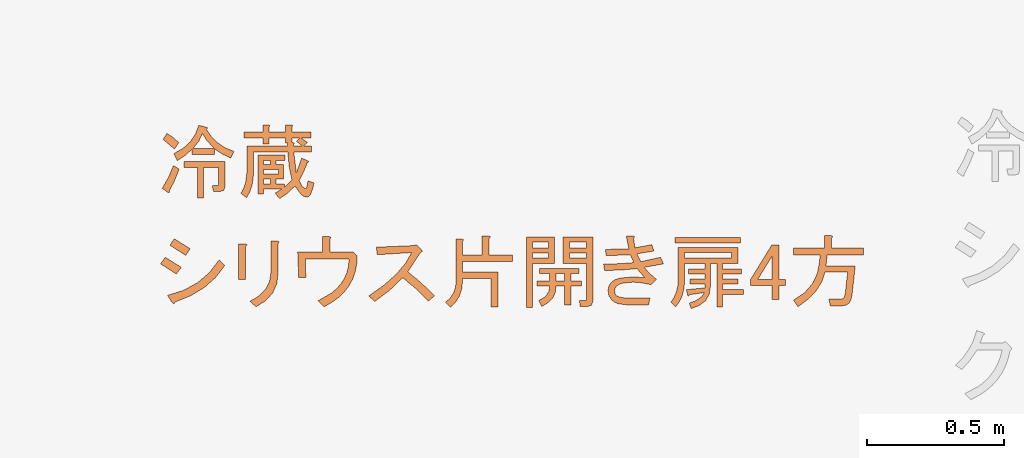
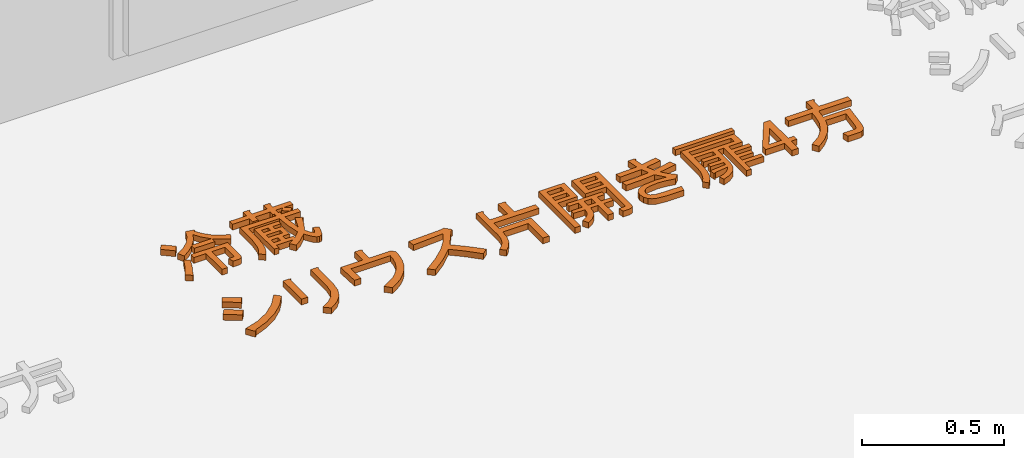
# One storey, part 11 of 16: 1 proxy.
"""IFC2X3 building model written with IfcOpenShell, lengths in millimetres."""

from ifc_helpers import new_model, entity, si_unit, converted_unit, derived_unit, direction, frame, frame_2d, origin, place, context, subcontext, project, spatial, polyline, rectangle, outline, extrude, type_object, element, save


model = new_model("IFC2X3")

# Units and contexts
model_context = context("Model", 3, precision=0.01, world=origin(), true_north=direction((6.123031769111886e-17, 1.0)))
body_context = subcontext(model_context, "Body", "Model", "MODEL_VIEW")
ifc_project = project(units=[si_unit("LENGTHUNIT", "METRE", prefix="MILLI"), si_unit("AREAUNIT", "SQUARE_METRE"), si_unit("VOLUMEUNIT", "CUBIC_METRE"), converted_unit("PLANEANGLEUNIT", "DEGREE", entity("IfcRatioMeasure", 0.017453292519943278), si_unit("PLANEANGLEUNIT", "RADIAN"), dimensions=[0, 0, 0, 0, 0, 0, 0]), si_unit("MASSUNIT", "GRAM", prefix="KILO"), derived_unit("MASSDENSITYUNIT", [(si_unit("MASSUNIT", "GRAM", prefix="KILO"), 1), (si_unit("LENGTHUNIT", "METRE"), -3)]), derived_unit("IONCONCENTRATIONUNIT", [(si_unit("MASSUNIT", "GRAM", prefix="KILO"), 1), (si_unit("LENGTHUNIT", "METRE"), -3)]), derived_unit("MOMENTOFINERTIAUNIT", [(si_unit("LENGTHUNIT", "METRE"), 4)]), si_unit("TIMEUNIT", "SECOND"), si_unit("FREQUENCYUNIT", "HERTZ"), si_unit("THERMODYNAMICTEMPERATUREUNIT", "DEGREE_CELSIUS"), derived_unit("THERMALTRANSMITTANCEUNIT", [(si_unit("MASSUNIT", "GRAM", prefix="KILO"), 1), (si_unit("THERMODYNAMICTEMPERATUREUNIT", "KELVIN"), -1), (si_unit("TIMEUNIT", "SECOND"), -3)]), derived_unit("THERMALCONDUCTANCEUNIT", [(si_unit("MASSUNIT", "GRAM", prefix="KILO"), 1), (si_unit("THERMODYNAMICTEMPERATUREUNIT", "KELVIN"), -1), (si_unit("TIMEUNIT", "SECOND"), -3), (si_unit("LENGTHUNIT", "METRE"), 1)]), derived_unit("VOLUMETRICFLOWRATEUNIT", [(si_unit("LENGTHUNIT", "METRE"), 3), (si_unit("TIMEUNIT", "SECOND"), -1)]), derived_unit("MASSFLOWRATEUNIT", [(si_unit("MASSUNIT", "GRAM", prefix="KILO"), 1), (si_unit("TIMEUNIT", "SECOND"), -1)]), derived_unit("ROTATIONALFREQUENCYUNIT", [(si_unit("TIMEUNIT", "SECOND"), -1)]), si_unit("ELECTRICCURRENTUNIT", "AMPERE"), si_unit("ELECTRICVOLTAGEUNIT", "VOLT"), si_unit("POWERUNIT", "WATT"), si_unit("FORCEUNIT", "NEWTON", prefix="KILO"), si_unit("ILLUMINANCEUNIT", "LUX"), si_unit("LUMINOUSFLUXUNIT", "LUMEN"), si_unit("LUMINOUSINTENSITYUNIT", "CANDELA"), derived_unit("USERDEFINED", [(si_unit("MASSUNIT", "GRAM", prefix="KILO"), -1), (si_unit("LENGTHUNIT", "METRE"), -2), (si_unit("TIMEUNIT", "SECOND"), 3), (si_unit("LUMINOUSFLUXUNIT", "LUMEN"), 1)]), derived_unit("USERDEFINED", [(si_unit("MASSUNIT", "GRAM", prefix="KILO"), 1), (si_unit("TIMEUNIT", "SECOND"), -3), (si_unit("LENGTHUNIT", "METRE"), 3), (si_unit("ELECTRICCURRENTUNIT", "AMPERE"), -2)]), derived_unit("SOUNDPOWERUNIT", [(si_unit("MASSUNIT", "GRAM", prefix="KILO"), 1), (si_unit("TIMEUNIT", "SECOND"), -3), (si_unit("LENGTHUNIT", "METRE"), 2)]), derived_unit("SOUNDPRESSUREUNIT", [(si_unit("MASSUNIT", "GRAM", prefix="KILO"), 1), (si_unit("LENGTHUNIT", "METRE"), -1), (si_unit("TIMEUNIT", "SECOND"), -2)]), derived_unit("LINEARVELOCITYUNIT", [(si_unit("LENGTHUNIT", "METRE"), 1), (si_unit("TIMEUNIT", "SECOND"), -1)]), si_unit("PRESSUREUNIT", "PASCAL"), derived_unit("USERDEFINED", [(si_unit("MASSUNIT", "GRAM", prefix="KILO"), 1), (si_unit("LENGTHUNIT", "METRE"), -2), (si_unit("TIMEUNIT", "SECOND"), -2)]), derived_unit("LINEARFORCEUNIT", [(si_unit("MASSUNIT", "GRAM", prefix="KILO"), 1), (si_unit("TIMEUNIT", "SECOND"), -2)]), derived_unit("PLANARFORCEUNIT", [(si_unit("MASSUNIT", "GRAM", prefix="KILO"), 1), (si_unit("LENGTHUNIT", "METRE"), -1), (si_unit("TIMEUNIT", "SECOND"), -2)]), derived_unit("SPECIFICHEATCAPACITYUNIT", [(si_unit("THERMODYNAMICTEMPERATUREUNIT", "KELVIN"), -1), (si_unit("LENGTHUNIT", "METRE"), 2), (si_unit("TIMEUNIT", "SECOND"), -2)]), derived_unit("HEATINGVALUEUNIT", [(si_unit("LENGTHUNIT", "METRE"), 2), (si_unit("TIMEUNIT", "SECOND"), -2)]), derived_unit("VAPORPERMEABILITYUNIT", [(si_unit("LENGTHUNIT", "METRE"), -1), (si_unit("TIMEUNIT", "SECOND"), 1)]), derived_unit("DYNAMICVISCOSITYUNIT", [(si_unit("MASSUNIT", "GRAM", prefix="KILO"), 1), (si_unit("TIMEUNIT", "SECOND"), -1), (si_unit("LENGTHUNIT", "METRE"), -1)]), derived_unit("THERMALEXPANSIONCOEFFICIENTUNIT", [(si_unit("THERMODYNAMICTEMPERATUREUNIT", "KELVIN"), -1)]), derived_unit("MODULUSOFELASTICITYUNIT", [(si_unit("MASSUNIT", "GRAM", prefix="KILO"), 1), (si_unit("LENGTHUNIT", "METRE"), -1), (si_unit("TIMEUNIT", "SECOND"), -2)]), derived_unit("ISOTHERMALMOISTURECAPACITYUNIT", [(si_unit("LENGTHUNIT", "METRE"), 3), (si_unit("MASSUNIT", "GRAM", prefix="KILO"), -1)]), derived_unit("MOISTUREDIFFUSIVITYUNIT", [(si_unit("TIMEUNIT", "SECOND"), -1), (si_unit("LENGTHUNIT", "METRE"), 2)])], contexts=[model_context])

# Site, building, storey
site_placement = place(None, origin())
site = spatial("IfcSite", under=ifc_project, at=site_placement, Name="Default", CompositionType="ELEMENT")
building_placement = place(site_placement, origin())
building = spatial("IfcBuilding", under=site, at=building_placement, CompositionType="ELEMENT")
storey_placement = place(building_placement, frame((0.0, 0.0, 500.0)))
storey = spatial("IfcBuildingStorey", under=building, at=storey_placement, Name="レベル 1", CompositionType="ELEMENT", Elevation=500.00000000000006)

# Proxy
building_element_proxy_type = type_object("IfcBuildingElementProxyType", Name="立体文字:200㎜\u3000MS Pゴシック", PredefinedType="NOTDEFINED")
proxy_placement = place(storey_placement, origin())
element("IfcBuildingElementProxy", 1, at=proxy_placement, inside=storey, type_object=building_element_proxy_type, Name="立体文字:200㎜\u3000MS Pゴシック", ObjectType="立体文字:200㎜\u3000MS Pゴシック", context=body_context, shape_type="SweptSolid", body=[
    extrude(outline(polyline([(-12.69292841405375, -26.506046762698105), (13.137935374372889, -26.506046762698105), (20.196666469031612, 26.894788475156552), (-7.8336570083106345, 28.224694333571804), (-12.808016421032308, -2.107389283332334), (-12.69292841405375, -26.506046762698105)])), frame((-11926.052503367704, 18997.184638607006, 0.0), z_axis=(0.0, 0.0, 1.0), x_axis=(-0.5339929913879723, -0.8454889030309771, 0.0)), (0.0, 0.0, 1.0), 24.99999999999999),
    extrude(outline(polyline([(-86.15242915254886, -7.39350536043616), (-75.8073039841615, -7.39350536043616), (-75.8073039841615, 24.79132849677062), (-57.41597035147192, 24.79132849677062), (-57.41597035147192, -3.945130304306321), (-4.540886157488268, -3.945130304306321), (-4.540886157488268, 24.79132849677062), (11.551530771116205, 24.79132849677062), (11.551530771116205, -8.542963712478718), (29.942864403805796, -8.542963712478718), (29.942864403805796, 90.3104545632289), (-111.44051289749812, 90.3104545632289), (-111.44051289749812, 70.76966257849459), (-94.1986376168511, 70.76966257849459), (-94.1986376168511, 4.101078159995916), (-107.99213784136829, 27.090245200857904), (-128.682388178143, 10.997828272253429), (-110.2910545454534, -15.727078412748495), (-82.70405409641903, -45.3256309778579), (-112.87733583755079, -66.59061049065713), (-120.42065627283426, -76.79205336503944), (-122.93509641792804, -86.70613165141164), (-120.77986200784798, -94.68049896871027), (-114.31415877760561, -101.36172563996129), (-88.45134585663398, -110.84475704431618), (-71.20947057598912, -114.29313210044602), (-63.163262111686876, -92.45342341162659), (-78.10622068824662, -90.15450670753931), (-88.45134585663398, -87.28086082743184), (-91.89972091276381, -83.2577565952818), (-84.71560621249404, -72.33790225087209), (-63.163262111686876, -60.26858955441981), (-30.403699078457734, -76.93573565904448), (3.505322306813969, -90.15450670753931), (5.5168744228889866, -95.90179846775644), (9.252614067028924, -92.45342341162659), (19.597739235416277, -69.4642563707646), (-35.57626166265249, -49.9234643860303), (41.437447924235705, -40.7277975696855), (41.437447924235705, -105.09746528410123), (63.27715661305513, -105.09746528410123), (63.27715661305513, -76.36100648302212), (77.07065683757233, -90.15450670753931), (93.1630737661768, -67.16533966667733), (93.1630737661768, -103.9480069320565), (115.00278245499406, -103.9480069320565), (115.00278245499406, -33.831047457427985), (133.39411608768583, -33.831047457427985), (137.99194949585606, -37.566787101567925), (140.29086619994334, -32.68158910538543), (140.29086619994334, -10.841880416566), (115.00278245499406, -10.841880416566), (115.00278245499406, 48.92995388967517), (133.39411608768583, 48.92995388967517), (137.99194949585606, 45.19421424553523), (140.29086619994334, 50.079412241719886), (140.29086619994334, 71.91912093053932), (115.00278245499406, 71.91912093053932), (115.00278245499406, 140.88662205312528), (93.1630737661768, 140.88662205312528), (93.1630737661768, 71.91912093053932), (71.32336507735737, 71.91912093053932), (71.32336507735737, 48.92995388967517), (93.1630737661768, 48.92995388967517), (93.1630737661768, -10.841880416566), (74.77174013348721, -10.841880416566), (74.77174013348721, -17.738630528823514), (63.27715661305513, -17.738630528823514), (63.27715661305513, 129.3920385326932), (-24.081678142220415, 129.3920385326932), (-70.63474139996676, 135.13933029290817), (-90.89394485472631, 142.32344499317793), (-109.14159619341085, 152.38120557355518), (-125.23401312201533, 131.6909552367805), (-105.26217425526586, 120.62741859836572), (-83.27878327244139, 112.72489242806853), (-59.28384017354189, 107.98337672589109), (-33.27734495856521, 106.40287149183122), (41.437447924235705, 106.40287149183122), (41.437447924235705, -18.888088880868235), (-12.012365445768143, -23.773286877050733), (-59.714887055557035, -33.831047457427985), (-86.15242915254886, -7.39350536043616)]), holes=[polyline([(75.92119848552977, -38.428880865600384), (75.92119848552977, -33.831047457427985), (93.1630737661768, -33.831047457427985), (93.1630737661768, -62.56750625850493), (80.51903189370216, -49.9234643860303), (63.27715661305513, -72.91263142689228), (63.27715661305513, -39.57833921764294), (70.17390672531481, -39.57833921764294), (73.33491719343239, -43.31407886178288), (75.92119848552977, -38.428880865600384)]), polyline([(-4.540886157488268, 70.76966257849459), (11.551530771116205, 70.76966257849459), (11.551530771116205, 44.33212048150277), (-4.540886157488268, 44.33212048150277), (-4.540886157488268, 70.76966257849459)]), polyline([(-39.02463671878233, 70.76966257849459), (-22.932219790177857, 70.76966257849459), (-22.932219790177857, 15.595661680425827), (-39.02463671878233, 15.595661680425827), (-39.02463671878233, 70.76966257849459)]), polyline([(-75.8073039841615, 70.76966257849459), (-57.41597035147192, 70.76966257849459), (-57.41597035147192, 44.33212048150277), (-75.8073039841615, 44.33212048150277), (-75.8073039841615, 70.76966257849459)])]), frame((-11519.181218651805, 18912.81492123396, 0.0), z_axis=(0.0, 0.0, 1.0), x_axis=(0.0, 1.0, 0.0)), (0.0, 0.0, 1.0), 25.0),
    extrude(outline(polyline([(-14.555450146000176, -34.35830877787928), (13.834076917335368, -34.35830877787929), (14.857961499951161, 33.86963659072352), (-14.136588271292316, 34.846980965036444), (-14.555450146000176, -34.35830877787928)])), frame((-11893.695250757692, 18607.7021825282, 0.0), z_axis=(0.0, 0.0, 1.0), x_axis=(-0.526354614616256, -0.8502651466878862, 0.0)), (0.0, 0.0, 1.0), 24.99999999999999),
    extrude(outline(polyline([(-84.58097707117, 8.18989075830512), (-84.58097707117, -18.247651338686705), (45.307816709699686, -18.247651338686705), (45.307816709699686, 7.040432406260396), (42.43417082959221, 13.075088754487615), (36.112149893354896, 8.18989075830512), (-84.58097707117, 8.18989075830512)])), frame((-11662.0506563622, 18573.31422016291, 0.0), z_axis=(0.0, 0.0, -1.0), x_axis=(0.0, 1.0, 0.0)), (0.0, 0.0, -1.0), 25.0),
    extrude(outline(polyline([(-11.477428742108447, -36.07605005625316), (15.650762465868, -36.07605005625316), (18.548657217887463, -33.22685941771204), (15.261129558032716, -27.796350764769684), (8.868714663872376, 11.398284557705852), (-3.1003212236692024, 57.19232725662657), (-27.25756150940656, 55.09805037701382), (-16.493952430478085, 9.486648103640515), (-11.477428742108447, -36.07605005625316)])), frame((-11928.286763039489, 18844.29949367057, 0.0), z_axis=(0.0, 0.0, 1.0), x_axis=(0.805055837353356, -0.5931990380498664, 0.0)), (0.0, 0.0, 1.0), 24.999999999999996),
    extrude(outline(polyline([(-21.43923971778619, -112.61303631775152), (6.833697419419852, -112.61303631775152), (2.592756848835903, -77.40037824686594), (-6.017637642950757, -45.78609399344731), (10.432071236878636, -54.010948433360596), (47.4439162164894, 20.012741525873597), (29.966100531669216, 28.75164936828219), (60.937818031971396, 46.35797840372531), (85.99792140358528, 66.2775477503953), (69.54821252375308, 87.35373725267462), (43.46000234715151, 64.89602923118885), (15.058551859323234, 48.414192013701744), (-15.656138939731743, 37.90822560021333), (-48.68407005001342, 33.37812999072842), (-48.29852999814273, 38.64717736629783), (-52.282443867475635, 39.032717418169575), (-73.3586333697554, 14.872207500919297), (-49.68004851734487, -10.05938252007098), (-33.13395462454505, -39.61745316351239), (-23.72035169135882, -73.80200442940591), (-21.43923971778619, -112.61303631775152)]), holes=[polyline([(26.881780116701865, 27.723542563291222), (-7.559797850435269, -41.15961337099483), (-20.66815961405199, -11.47302937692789), (-40.4592156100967, 13.844100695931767), (-9.230471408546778, 16.542881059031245), (26.881780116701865, 27.723542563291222)])]), frame((-11806.084971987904, 18979.691319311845, 0.0), z_axis=(0.0, 0.0, 1.0), x_axis=(0.4472135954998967, -0.8944271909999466, 0.0)), (0.0, 0.0, 1.0), 24.99999999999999),
    extrude(outline(polyline([(-95.80016952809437, -47.90008476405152), (-95.80016952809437, -69.73979345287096), (53.629416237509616, -69.73979345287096), (53.629416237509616, 24.515791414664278), (49.60631200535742, 35.72301034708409), (37.536999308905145, 39.45874999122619), (12.248915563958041, 39.45874999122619), (7.6510821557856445, 17.619041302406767), (26.042415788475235, 17.619041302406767), (29.49079084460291, 16.469582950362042), (30.64024919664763, 13.021207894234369), (30.64024919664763, -47.90008476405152), (-23.384293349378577, -47.90008476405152), (-23.384293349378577, 63.59737538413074), (-46.37346039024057, 63.59737538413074), (-46.37346039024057, -47.90008476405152), (-95.80016952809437, -47.90008476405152)])), frame((-11783.814216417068, 18850.028825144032, 0.0), z_axis=(0.0, 0.0, -1.0), x_axis=(1.0, 0.0, 0.0)), (0.0, 0.0, -1.0), 24.99999999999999),
    extrude(outline(polyline([(-24.760861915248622, -100.93244714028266), (5.213344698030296, -100.93244714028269), (14.007247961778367, -98.35378377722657), (10.414751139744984, -90.61779368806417), (21.87547719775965, -29.787786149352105), (23.197868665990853, 27.95664129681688), (14.381925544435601, 82.61548865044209), (-4.572352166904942, 134.1887559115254), (-33.1360078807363, 127.84127686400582), (-12.97504795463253, 72.94550103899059), (-4.858870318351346, 16.51795509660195), (-8.787474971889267, -41.44136096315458), (-24.760861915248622, -100.93244714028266)])), frame((-11840.939901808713, 18464.55869712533, 0.0), z_axis=(0.0, 0.0, 1.0), x_axis=(0.5368754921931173, -0.8436614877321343, 0.0)), (0.0, 0.0, 1.0), 24.99999999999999),
    extrude(outline(polyline([(12.171942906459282, 32.40035729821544), (-27.91541712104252, 27.371477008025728), (-61.96812080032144, 12.284836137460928), (-89.98616813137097, -12.85956531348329), (-111.96955911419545, -48.0617273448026), (-92.4287671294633, -71.05089438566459), (-72.88797514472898, -37.788443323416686), (-48.74934975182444, -13.865341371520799), (-20.0128909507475, 0.7184114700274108), (13.321401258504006, 5.962815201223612), (128.26723646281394, 5.962815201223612), (128.26723646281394, 30.101440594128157), (124.8188614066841, 36.42346153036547), (119.07156964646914, 32.40035729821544), (12.171942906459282, 32.40035729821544)])), frame((-11567.866912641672, 18501.849383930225, 0.0), z_axis=(0.0, 0.0, -1.0), x_axis=(0.0, 1.0, 0.0)), (0.0, 0.0, -1.0), 25.0),
    extrude(outline(polyline([(-12.927911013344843, -34.30740209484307), (16.736132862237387, -34.30740209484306), (13.261965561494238, 33.839725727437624), (-17.07018741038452, 34.77507846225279), (-12.927911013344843, -34.30740209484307)])), frame((-11927.02954296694, 18539.884139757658, 0.0), z_axis=(0.0, 0.0, 1.0), x_axis=(-0.5812381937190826, -0.8137334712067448, 0.0)), (0.0, 0.0, 1.0), 24.99999999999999),
    extrude(outline(polyline([(-22.97401156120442, -96.89434063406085), (-3.467056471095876, -96.89434063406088), (57.49217818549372, -35.93510597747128), (91.62934959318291, -70.07227738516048), (93.0517317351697, -77.59058299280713), (100.57003734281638, -74.1362263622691), (116.82583325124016, -57.880430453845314), (76.18634348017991, -17.240940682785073), (140.39673731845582, 46.96945315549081), (72.12239450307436, 110.36705719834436), (53.42822920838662, 91.6728919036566), (103.00840672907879, 45.343873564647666), (-9.969374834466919, -67.63390799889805), (-25.86957520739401, -48.88894334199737), (-38.213820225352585, -28.823195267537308), (-47.002109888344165, -7.436663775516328), (-52.23444419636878, 15.270651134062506), (-53.91082314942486, 39.298749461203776), (-52.03124674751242, 64.64763120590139), (-37.6042278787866, 119.30774494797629), (-68.49024010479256, 119.30774494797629), (-77.20233072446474, 88.0153378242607), (-81.79967300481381, 57.94211539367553), (-82.28226694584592, 29.08807765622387), (-78.65011254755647, 1.4532246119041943), (-70.90320980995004, -24.962443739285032), (-59.04155873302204, -50.15892739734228), (-43.06515931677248, -74.13622636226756), (-22.97401156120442, -96.89434063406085)])), frame((-11331.712233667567, 18522.673053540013, 0.0), z_axis=(0.0, 0.0, 1.0), x_axis=(-0.7071067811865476, 0.7071067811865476, 0.0)), (0.0, 0.0, 1.0), 24.999999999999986),
    extrude(outline(polyline([(5.525091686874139, 11.308020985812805), (-1.6526031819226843, 74.77664998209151), (-13.951595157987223, 140.91623239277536), (-42.89874219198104, 132.40700027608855), (-29.969436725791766, 67.22864593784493), (-22.823257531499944, 7.904328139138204), (-87.34766162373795, -7.171982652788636), (-151.01326358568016, -30.3714585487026), (-146.6483426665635, -59.350121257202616), (-83.07334826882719, -34.71668217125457), (-25.48633202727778, -19.214909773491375), (26.112706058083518, -12.84480406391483), (71.72376598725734, -15.606365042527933), (-3.7090009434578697, -115.96803050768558), (17.469532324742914, -133.9792384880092), (95.39203754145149, -25.628349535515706), (105.83948364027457, -15.984553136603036), (100.54485032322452, 9.480111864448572), (96.59357263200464, 15.507484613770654), (89.37254371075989, 11.308020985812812), (5.525091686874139, 11.308020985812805)])), frame((-11074.789510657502, 18519.05020712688, 0.0), z_axis=(0.0, 0.0, -1.0), x_axis=(0.5483569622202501, 0.8362443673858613, 0.0)), (0.0, 0.0, -1.0), 24.999999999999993),
    extrude(outline(polyline([(37.146662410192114, -113.38448760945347), (58.98637109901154, -113.38448760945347), (58.98637109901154, 40.642931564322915), (61.42897009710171, 63.5602574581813), (68.75676709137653, 84.03498435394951), (80.96976208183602, 102.06711225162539), (98.06795506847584, 117.65664115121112), (79.67662143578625, 136.0479747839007), (60.566876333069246, 116.43534165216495), (46.91705840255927, 94.38010952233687), (38.727167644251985, 69.8822783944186), (35.997204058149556, 42.94184826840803), (35.997204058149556, 31.447264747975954), (-67.45404762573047, 31.447264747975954), (-67.45404762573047, 134.89851643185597), (-93.89158972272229, 134.89851643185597), (-93.89158972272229, 6.159181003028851), (35.997204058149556, 6.159181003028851), (35.997204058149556, -30.623486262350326), (-146.76667391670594, -30.623486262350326), (-146.76667391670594, -55.911570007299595), (-61.70675586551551, -55.911570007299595), (-61.70675586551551, -115.68340431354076), (-66.591953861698, -121.43069607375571), (-60.55729751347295, -124.87907112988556), (-35.269213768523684, -124.87907112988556), (-35.269213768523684, -55.911570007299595), (35.997204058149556, -55.911570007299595), (35.997204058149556, -104.18882079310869), (31.112006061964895, -109.9361125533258), (37.146662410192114, -113.38448760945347)])), frame((-10826.990237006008, 18523.628882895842, 0.0), z_axis=(0.0, 0.0, 1.0), x_axis=(-1.0, 0.0, 0.0)), (0.0, 0.0, 1.0), 25.0),
    extrude(outline(polyline([(-168.70511813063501, -69.76327998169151), (-73.30007491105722, -69.76327998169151), (-73.30007491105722, -27.23332095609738), (-73.30007491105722, 15.296638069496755), (57.73817722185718, 15.296638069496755), (61.18655227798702, 14.147179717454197), (62.33601063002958, 10.698804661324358), (62.33601063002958, -11.140904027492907), (84.175719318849, -7.692528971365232), (84.175719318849, 19.894471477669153), (79.57788591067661, 33.687971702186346), (65.78438568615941, 38.285805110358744), (-168.70511813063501, 38.285805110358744), (-168.70511813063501, -69.76327998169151)]), holes=[polyline([(-91.69140854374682, -46.774112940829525), (-111.23220052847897, -46.774112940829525), (-111.23220052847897, 15.296638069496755), (-91.69140854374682, 15.296638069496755), (-91.69140854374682, -46.774112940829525)]), polyline([(-129.62353416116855, 15.296638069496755), (-129.62353416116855, -46.774112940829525), (-150.31378449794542, -46.774112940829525), (-150.31378449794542, 15.296638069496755), (-129.62353416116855, 15.296638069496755)])]), frame((-10425.39748842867, 18475.20500248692, 0.0), z_axis=(0.0, 0.0, 1.0), x_axis=(0.0, -1.0, 0.0)), (0.0, 0.0, 1.0), 25.0),
    extrude(outline(polyline([(-70.5811638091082, -3.907053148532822), (-70.5811638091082, -22.298386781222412), (-24.60282972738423, -22.298386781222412), (-24.60282972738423, -49.885387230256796), (-62.53495534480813, -49.885387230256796), (-62.53495534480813, -68.27672086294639), (82.29679701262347, -68.27672086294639), (82.29679701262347, -49.885387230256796), (52.41087985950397, -49.885387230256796), (52.41087985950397, -22.298386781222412), (91.49246382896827, -22.298386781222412), (91.49246382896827, -3.907053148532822), (52.41087985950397, -3.907053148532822), (52.41087985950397, 65.06044797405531), (29.42171281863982, 65.06044797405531), (29.42171281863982, -3.907053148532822), (-1.6136626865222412, -3.907053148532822), (-3.9844205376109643, 19.728684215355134), (-13.395610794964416, 40.05972881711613), (-29.847233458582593, 57.08608065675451), (-53.339288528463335, 70.80773973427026), (-64.83387204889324, 48.96803104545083), (-47.23279103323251, 40.05972881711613), (-34.66059030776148, 28.27778070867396), (-27.117269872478, 13.622186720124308), (-24.60282972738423, -3.907053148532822), (-70.5811638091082, -3.907053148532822)]), holes=[polyline([(29.42171281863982, -22.298386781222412), (29.42171281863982, -49.885387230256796), (-1.6136626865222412, -49.885387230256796), (-1.6136626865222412, -22.298386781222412), (29.42171281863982, -22.298386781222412)])]), frame((-10519.984647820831, 18461.837022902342, 0.0), z_axis=(0.0, 0.0, -1.0), x_axis=(1.0, 0.0, 0.0)), (0.0, 0.0, -1.0), 25.0),
    extrude(outline(polyline([(21.839708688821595, -61.30444544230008), (117.24475190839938, -61.30444544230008), (117.24475190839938, 42.146806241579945), (-139.08446059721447, 42.146806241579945), (-139.08446059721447, 19.157639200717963), (21.839708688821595, 19.157639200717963), (21.839708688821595, -61.30444544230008)]), holes=[polyline([(98.85341827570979, -38.315278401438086), (78.16316793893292, -38.315278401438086), (78.16316793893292, 19.157639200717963), (98.85341827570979, 19.157639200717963), (98.85341827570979, -38.315278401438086)]), polyline([(40.23104232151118, 19.157639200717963), (59.771834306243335, 19.157639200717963), (59.771834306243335, -38.315278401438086), (40.23104232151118, -38.315278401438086), (40.23104232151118, 19.157639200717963)])]), frame((-10587.500589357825, 18526.665368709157, 0.0), z_axis=(0.0, 0.0, 1.0), x_axis=(0.0, 1.0, 0.0)), (0.0, 0.0, 1.0), 25.0),
    extrude(outline(polyline([(42.1631755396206, 67.93889097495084), (105.09011528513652, 67.93889097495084), (100.93277992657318, 91.93805418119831), (38.95068912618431, 90.6152656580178), (38.95068912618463, 125.57467662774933), (44.71426769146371, 130.44064869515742), (39.328628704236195, 134.83419629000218), (14.384616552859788, 138.99153164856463), (15.707405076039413, 90.9932052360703), (-68.57312082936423, 102.70933215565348), (-70.0848791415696, 79.65501789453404), (17.786072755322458, 68.50580034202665), (25.53383410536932, 38.08166430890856), (-27.850131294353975, 42.90039392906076), (-84.06864352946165, 51.687489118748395), (-84.63555289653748, 27.310386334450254), (-23.409341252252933, 18.853988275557), (33.28159545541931, 14.649410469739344), (56.14693992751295, -22.95557754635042), (15.896374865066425, -12.75120893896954), (-34.794771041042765, -9.255267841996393), (-53.08940874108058, -12.39689058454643), (-66.68342293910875, -18.798242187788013), (-78.30506496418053, -30.84506623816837), (-84.0686435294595, -46.19886159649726), (-83.92691618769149, -66.32414412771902), (-76.32088217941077, -83.61487982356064), (-66.87239272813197, -93.34682395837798), (-53.64450749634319, -101.37803999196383), (-15.850549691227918, -112.33828775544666), (53.31239309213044, -123.86544488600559), (62.00500338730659, -99.6773118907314), (-7.157939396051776, -88.15015476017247), (-40.51110715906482, -80.26066606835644), (-56.668024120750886, -70.57596438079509), (-60.44741990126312, -61.788869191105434), (-60.44741990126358, -51.301045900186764), (-56.99872125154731, -42.84464784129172), (-49.67614192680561, -35.61655341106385), (-39.89695534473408, -31.128520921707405), (-26.43285787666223, -29.002610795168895), (11.550069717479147, -31.837157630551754), (39.234143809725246, -38.78179737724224), (74.66597925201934, -51.67898547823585), (97.15338414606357, -35.61655341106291), (75.98876777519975, -10.53081391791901), (60.115305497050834, 14.838380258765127), (131.35691595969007, 15.783229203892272), (125.12091292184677, 41.29415072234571), (51.044755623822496, 37.32578515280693), (42.1631755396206, 67.93889097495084)])), frame((-10256.607929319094, 18509.042735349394, 0.0), z_axis=(0.0, 0.0, 1.0), x_axis=(0.9863939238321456, 0.16439898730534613, 0.0)), (0.0, 0.0, 1.0), 25.0),
    extrude(rectangle(XDim=239.08733722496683, YDim=18.39133363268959, at=frame_2d((1.0800249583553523e-12, 0.0), x_axis=(1.0, 0.0))), frame((-9967.513406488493, 18632.415537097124, 0.0), z_axis=(0.0, 0.0, 1.0), x_axis=(-1.0, 0.0, 0.0)), (0.0, 0.0, 1.0), 25.0),
    extrude(outline(polyline([(45.65690358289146, -73.01948813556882), (67.46634239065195, -73.01948813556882), (65.92150714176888, -40.169020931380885), (56.56162298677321, -13.952258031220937), (39.38668992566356, 5.63080056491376), (14.396707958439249, 18.58015485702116), (-67.38868757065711, 45.8419533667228), (-59.755383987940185, 68.74186411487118), (91.82021572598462, 18.21666421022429), (97.99955672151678, 36.754687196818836), (54.380679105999, 51.29431306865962), (78.73455244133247, 124.35593307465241), (61.287001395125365, 130.17178342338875), (36.93312805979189, 57.11016341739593), (18.395105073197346, 63.289504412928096), (36.56963741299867, 117.81310143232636), (19.12208636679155, 123.62895178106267), (0.9475540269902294, 69.1053547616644), (-16.49999701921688, 74.92120511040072), (5.67293243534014, 141.4399934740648), (-11.774618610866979, 147.25584382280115), (-33.947548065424, 80.73705545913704), (-53.57604299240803, 87.27988710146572), (-35.76500129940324, 140.7130121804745), (-90.2885983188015, 158.8875445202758), (-158.98833056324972, -47.21165221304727), (-48.85066458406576, -83.92420753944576), (-26.882198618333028, -92.98875554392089), (-7.867094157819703, -104.55230174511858), (8.194648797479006, -118.61484614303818), (21.303030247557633, -135.1763887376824), (43.11246905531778, -124.2716693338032), (29.3679789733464, -104.84763789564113), (11.76140076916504, -88.3769679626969), (-9.707265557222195, -74.85965953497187), (-35.038020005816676, -64.29571261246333), (-97.19492060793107, -43.576745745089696), (-73.56802856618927, 27.30393038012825), (-53.939533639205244, 20.761098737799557), (-73.20453791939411, -37.033914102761), (-55.756986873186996, -42.849764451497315), (-36.49198259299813, 14.945248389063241), (-19.044431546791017, 9.129398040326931), (-36.12849194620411, -42.12278315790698), (-18.68094089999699, -47.93863350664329), (-1.5968805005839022, 3.313547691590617), (11.488782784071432, -1.0483400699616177), (-3.4143337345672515, -67.56712843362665), (18.75859571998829, -70.11156296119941), (21.30303024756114, -67.02189246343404), (17.30463313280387, -63.56873131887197), (27.118880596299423, -8.681643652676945), (36.319737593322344, -19.92713553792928), (42.47636042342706, -34.39860691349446), (45.58874908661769, -52.09605777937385), (45.65690358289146, -73.01948813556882)]), holes=[polyline([(-80.11086020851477, 131.2622553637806), (-60.48236528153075, 124.71942372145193), (-114.64247165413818, -37.76089539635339), (-134.2709665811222, -31.218063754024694), (-80.11086020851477, 131.2622553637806)])]), frame((-9980.497061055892, 18470.078056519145, 0.0), z_axis=(0.0, 0.0, 1.0), x_axis=(0.3162277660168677, -0.9486832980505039, 0.0)), (0.0, 0.0, 1.0), 25.0),
    extrude(outline(polyline([(-103.50936350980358, -69.26732231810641), (43.55843111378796, -69.26732231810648), (63.143513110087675, -57.2287856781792), (22.81441536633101, 8.381239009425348), (65.9015957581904, 34.86601961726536), (52.0572786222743, 57.38886391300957), (8.970098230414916, 30.90408330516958), (-3.6703652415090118, 51.46841940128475), (-22.276193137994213, 40.03180959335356), (-9.635729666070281, 19.467473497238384), (-117.35368064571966, -46.74447802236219), (-103.50936350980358, -69.26732231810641)]), holes=[polyline([(-67.27696181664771, -46.99602953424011), (4.208587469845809, -3.0553707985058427), (31.29529490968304, -47.12180529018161), (-67.27696181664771, -46.99602953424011)])]), frame((-9729.366535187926, 18490.718671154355, 0.0), z_axis=(0.0, 0.0, 1.0), x_axis=(-0.5236612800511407, -0.851926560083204, 0.0)), (0.0, 0.0, 1.0), 24.999999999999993),
    extrude(outline(polyline([(31.25406221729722, -14.78595342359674), (43.39215042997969, 91.42231843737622), (-60.695218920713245, 91.7486111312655), (-79.11444149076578, 90.02129918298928), (-92.7371614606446, 84.70884626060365), (-101.56337883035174, 75.81125236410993), (-105.59309359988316, 63.32851749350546), (-110.81377670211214, 17.647540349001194), (-86.34182466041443, 9.066042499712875), (-80.7295903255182, 58.1730929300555), (-75.69652552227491, 64.25029435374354), (-62.4245701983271, 66.4935566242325), (18.56127642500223, 66.49355662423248), (9.164046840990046, -15.73220223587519), (-27.43375743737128, -23.408237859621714), (-62.440884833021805, -39.94312012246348), (-95.85733534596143, -65.33684902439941), (-127.68310897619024, -99.5894245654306), (-105.52783506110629, -118.31862519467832), (-74.98072092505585, -81.96757976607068), (-39.200687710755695, -56.771665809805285), (1.8122645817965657, -42.73088332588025), (48.05813595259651, -39.84523231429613), (68.74509274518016, -41.05251528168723), (57.78165823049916, -136.98256728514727), (82.90619565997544, -139.8539429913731), (95.69686926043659, -27.93554898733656), (141.37784640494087, -33.15623208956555), (144.24922211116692, -8.031694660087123), (141.50836348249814, -1.6445151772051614), (135.24354375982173, -5.845533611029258), (98.69876204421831, -1.6689871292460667), (111.8809868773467, 113.67548016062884), (86.75644944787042, 116.54685586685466), (71.7469855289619, -14.78595342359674), (31.25406221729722, -14.78595342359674)])), frame((-9525.324988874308, 18505.42912565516, 0.0), z_axis=(0.0, 0.0, -1.0), x_axis=(0.11354659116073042, 0.9935326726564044, 0.0)), (0.0, 0.0, -1.0), 24.999999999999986),
])

save(model, "model.ifc")
